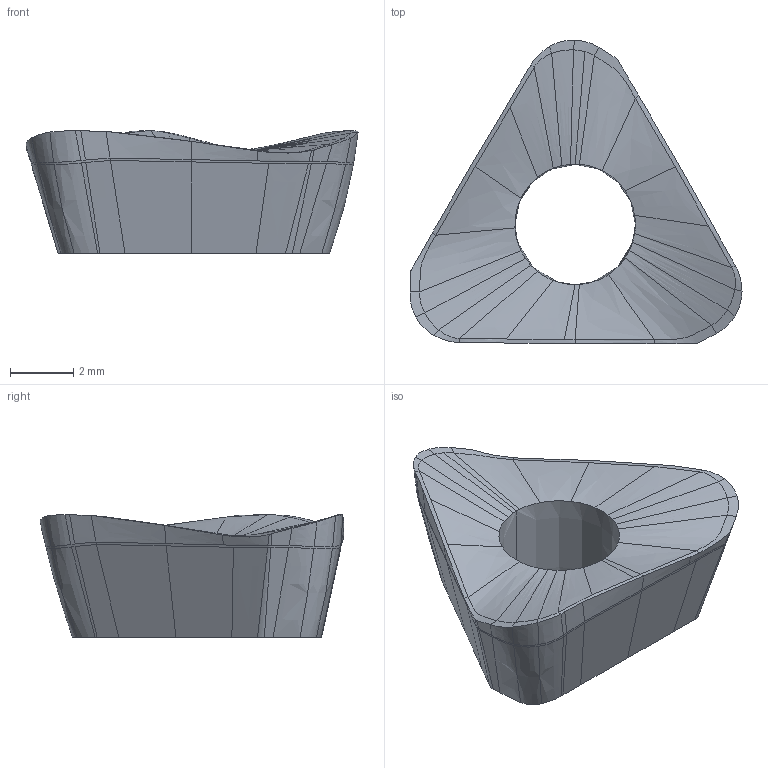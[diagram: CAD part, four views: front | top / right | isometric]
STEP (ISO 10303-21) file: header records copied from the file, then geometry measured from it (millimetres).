
FILE_DESCRIPTION(('CATIA V5 STEP','CAx-IF Rec.Pracs.--- Model Styling and Organization---1.2---2011-12-15'),'2;1');
FILE_NAME('C:\eit\appserv\eitdev\tmp\eit\transmagicconvert\1217253\HM390 TPKT 100316PDR.stp','2017-03-12T15:25:07+00:00',('none'),('none'),'CATIA Version 5 Release 21 SP 5 (IN-10)','CATIA V5 STEP AP214','none');
FILE_SCHEMA(('AUTOMOTIVE_DESIGN { 1 0 10303 214 1 1 1 1 }'));
Length unit declared in the file: millimetre
Products named in the file (1): HM390 TPKT 100316PDR
Bounding box: 10.46 x 9.58 x 3.86 mm (x, y, z)
Volume: 151.4 mm3; surface area: 234.9 mm2
Topology: 1 solids, 1 shells, 109 faces, 315 edges, 208 vertices
Faces by surface type: bspline 106, extrusion 2, plane 1
Entity records: 9168 total; most frequent: CARTESIAN_POINT 7258, ORIENTED_EDGE 564, B_SPLINE_CURVE_WITH_KNOTS 308, EDGE_CURVE 282, VERTEX_POINT 174, EDGE_LOOP 110, ADVANCED_FACE 109, FACE_OUTER_BOUND 109
